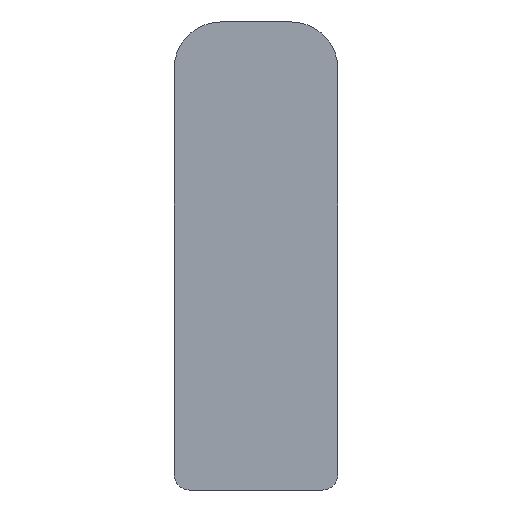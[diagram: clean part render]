
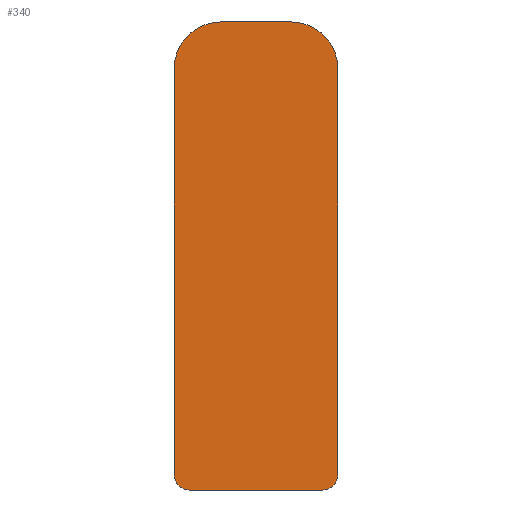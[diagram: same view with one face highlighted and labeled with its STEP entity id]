
A CAD part, left-side view. The second image highlights one B-rep face of the part: STEP entity #340.
In plain terms, the highlighted planar face has unit normal (-1, 0, 0).
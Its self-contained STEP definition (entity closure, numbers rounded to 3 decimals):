
#6 = CIRCLE ( 'NONE', #69, 1. ) ;
#7 = VECTOR ( 'NONE', #289, 1000. ) ;
#11 = LINE ( 'NONE', #291, #7 ) ;
#17 = FACE_OUTER_BOUND ( 'NONE', #131, .T. ) ;
#37 = VECTOR ( 'NONE', #271, 1000. ) ;
#39 = LINE ( 'NONE', #272, #37 ) ;
#43 = CIRCLE ( 'NONE', #67, 1. ) ;
#57 = AXIS2_PLACEMENT_3D ( 'NONE', #211, #210, #209 ) ;
#67 = AXIS2_PLACEMENT_3D ( 'NONE', #279, #278, #277 ) ;
#69 = AXIS2_PLACEMENT_3D ( 'NONE', #302, #301, #298 ) ;
#72 = AXIS2_PLACEMENT_3D ( 'NONE', #325, #324, #323 ) ;
#74 = AXIS2_PLACEMENT_3D ( 'NONE', #236, #233, #227 ) ;
#75 = EDGE_CURVE ( 'NONE', #284, #309, #110, .T. ) ;
#77 = EDGE_CURVE ( 'NONE', #328, #288, #105, .T. ) ;
#80 = EDGE_CURVE ( 'NONE', #288, #322, #103, .T. ) ;
#83 = EDGE_CURVE ( 'NONE', #322, #284, #175, .T. ) ;
#90 = EDGE_CURVE ( 'NONE', #309, #290, #6, .T. ) ;
#93 = EDGE_CURVE ( 'NONE', #290, #320, #11, .T. ) ;
#96 = EDGE_CURVE ( 'NONE', #320, #292, #43, .T. ) ;
#98 = EDGE_CURVE ( 'NONE', #292, #328, #39, .T. ) ;
#101 = VECTOR ( 'NONE', #331, 1000. ) ;
#103 = LINE ( 'NONE', #332, #101 ) ;
#105 = CIRCLE ( 'NONE', #74, 3. ) ;
#109 = VECTOR ( 'NONE', #274, 1000. ) ;
#110 = LINE ( 'NONE', #276, #109 ) ;
#131 = EDGE_LOOP ( 'NONE', ( #158, #159, #160, #161, #162, #163, #164, #165 ) ) ;
#158 = ORIENTED_EDGE ( 'NONE', *, *, #77, .T. ) ;
#159 = ORIENTED_EDGE ( 'NONE', *, *, #80, .T. ) ;
#160 = ORIENTED_EDGE ( 'NONE', *, *, #83, .T. ) ;
#161 = ORIENTED_EDGE ( 'NONE', *, *, #75, .T. ) ;
#162 = ORIENTED_EDGE ( 'NONE', *, *, #90, .T. ) ;
#163 = ORIENTED_EDGE ( 'NONE', *, *, #93, .T. ) ;
#164 = ORIENTED_EDGE ( 'NONE', *, *, #96, .T. ) ;
#165 = ORIENTED_EDGE ( 'NONE', *, *, #98, .T. ) ;
#175 = CIRCLE ( 'NONE', #72, 3. ) ;
#209 = DIRECTION ( 'NONE',  ( 0., 0., 1. ) ) ;
#210 = DIRECTION ( 'NONE',  ( -1., 0., 0. ) ) ;
#211 = CARTESIAN_POINT ( 'NONE',  ( -178.25, -2.25, 27. ) ) ;
#212 = PLANE ( 'NONE',  #57 ) ;
#227 = DIRECTION ( 'NONE',  ( 0., 0., 1. ) ) ;
#233 = DIRECTION ( 'NONE',  ( -1., 0., 0. ) ) ;
#236 = CARTESIAN_POINT ( 'NONE',  ( -178.25, -2.25, 27. ) ) ;
#245 = CARTESIAN_POINT ( 'NONE',  ( -178.25, -5.25, 27. ) ) ;
#247 = CARTESIAN_POINT ( 'NONE',  ( -178.25, 2.25, 30. ) ) ;
#248 = CARTESIAN_POINT ( 'NONE',  ( -178.25, -4.25, 0. ) ) ;
#252 = CARTESIAN_POINT ( 'NONE',  ( -178.25, 5.25, 1. ) ) ;
#257 = CARTESIAN_POINT ( 'NONE',  ( -178.25, -5.25, 1. ) ) ;
#258 = CARTESIAN_POINT ( 'NONE',  ( -178.25, 4.25, 0. ) ) ;
#259 = CARTESIAN_POINT ( 'NONE',  ( -178.25, -2.25, 30. ) ) ;
#260 = CARTESIAN_POINT ( 'NONE',  ( -178.25, 5.25, 27. ) ) ;
#271 = DIRECTION ( 'NONE',  ( 0., 0., 1. ) ) ;
#272 = CARTESIAN_POINT ( 'NONE',  ( -178.25, -5.25, 1. ) ) ;
#274 = DIRECTION ( 'NONE',  ( 0., 0., -1. ) ) ;
#276 = CARTESIAN_POINT ( 'NONE',  ( -178.25, 5.25, 1. ) ) ;
#277 = DIRECTION ( 'NONE',  ( 0., 0., -1. ) ) ;
#278 = DIRECTION ( 'NONE',  ( -1., 0., 0. ) ) ;
#279 = CARTESIAN_POINT ( 'NONE',  ( -178.25, -4.25, 1. ) ) ;
#284 = VERTEX_POINT ( 'NONE', #260 ) ;
#288 = VERTEX_POINT ( 'NONE', #259 ) ;
#289 = DIRECTION ( 'NONE',  ( 0., -1., 0. ) ) ;
#290 = VERTEX_POINT ( 'NONE', #258 ) ;
#291 = CARTESIAN_POINT ( 'NONE',  ( -178.25, -4.25, 0. ) ) ;
#292 = VERTEX_POINT ( 'NONE', #257 ) ;
#298 = DIRECTION ( 'NONE',  ( 0., 0., -1. ) ) ;
#301 = DIRECTION ( 'NONE',  ( -1., 0., 0. ) ) ;
#302 = CARTESIAN_POINT ( 'NONE',  ( -178.25, 4.25, 1. ) ) ;
#309 = VERTEX_POINT ( 'NONE', #252 ) ;
#320 = VERTEX_POINT ( 'NONE', #248 ) ;
#322 = VERTEX_POINT ( 'NONE', #247 ) ;
#323 = DIRECTION ( 'NONE',  ( 0., 0., -1. ) ) ;
#324 = DIRECTION ( 'NONE',  ( -1., 0., 0. ) ) ;
#325 = CARTESIAN_POINT ( 'NONE',  ( -178.25, 2.25, 27. ) ) ;
#328 = VERTEX_POINT ( 'NONE', #245 ) ;
#331 = DIRECTION ( 'NONE',  ( 0., 1., 0. ) ) ;
#332 = CARTESIAN_POINT ( 'NONE',  ( -178.25, -2.25, 30. ) ) ;
#340 = ADVANCED_FACE ( 'NONE', ( #17 ), #212, .T. ) ;
